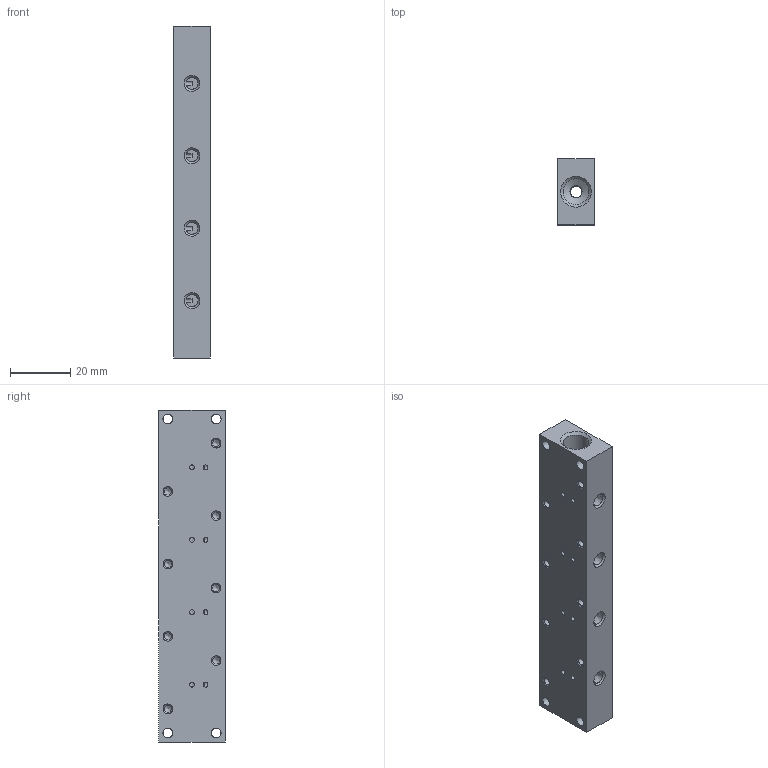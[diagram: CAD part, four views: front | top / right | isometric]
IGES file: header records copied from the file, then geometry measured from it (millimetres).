
Global section: file name: 305_08_04; native system: Autodesk Inventor 2014; preprocessor: unknown; author: A. Manieri; organization: Pneumax S.p.A.; date: 20161004.151310; units: millimetre
Bounding box: 12 x 22 x 110 mm (x, y, z)
Volume: 25514.2 mm3; surface area: 11005 mm2
Topology: 1 solids, 1 shells, 65 faces, 218 edges, 155 vertices
Faces by surface type: bspline 65
